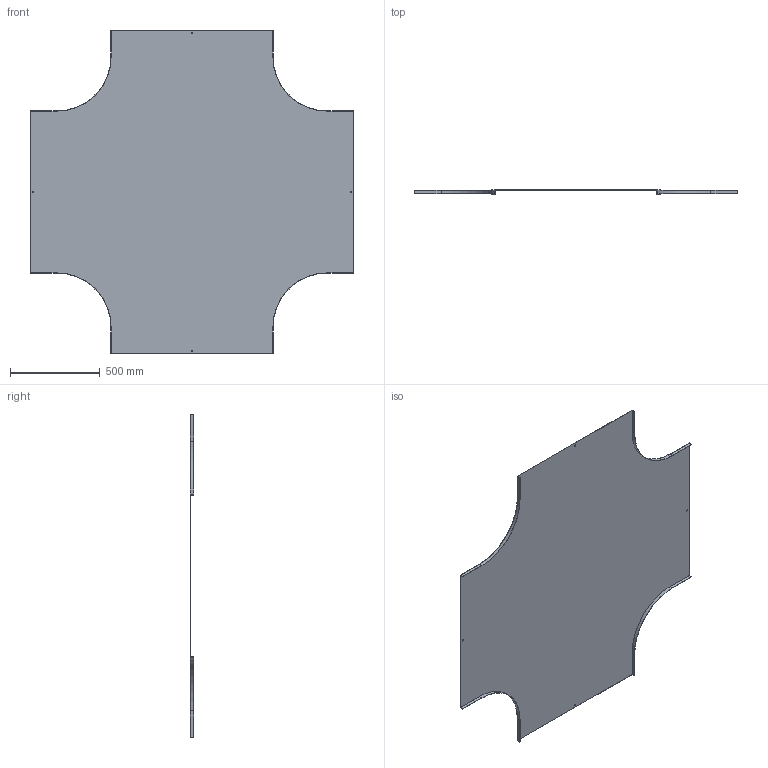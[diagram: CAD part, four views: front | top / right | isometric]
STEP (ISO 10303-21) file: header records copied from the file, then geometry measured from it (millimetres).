
FILE_DESCRIPTION (( 'STEP AP214' ), '1' );
FILE_NAME ('A2_17N3R900.step', '2025-02-21T12:08:31', ( '' ), ( '' ), 'SwSTEP 2.0', 'SolidWorks 2023', '' );
FILE_SCHEMA (( 'AUTOMOTIVE_DESIGN' ));
Length unit declared in the file: millimetre
Products named in the file (1): A2_17N3R900
Bounding box: 1800 x 20 x 1800 mm (x, y, z)
Volume: 3852941.3 mm3; surface area: 5147694.3 mm2
Topology: 1 solids, 1 shells, 50 faces, 144 edges, 96 vertices
Faces by surface type: plane 42, cylinder 8
Entity records: 1663 total; most frequent: CARTESIAN_POINT 291, ORIENTED_EDGE 288, DIRECTION 262, EDGE_CURVE 144, LINE 128, VECTOR 128, VERTEX_POINT 96, AXIS2_PLACEMENT_3D 67
